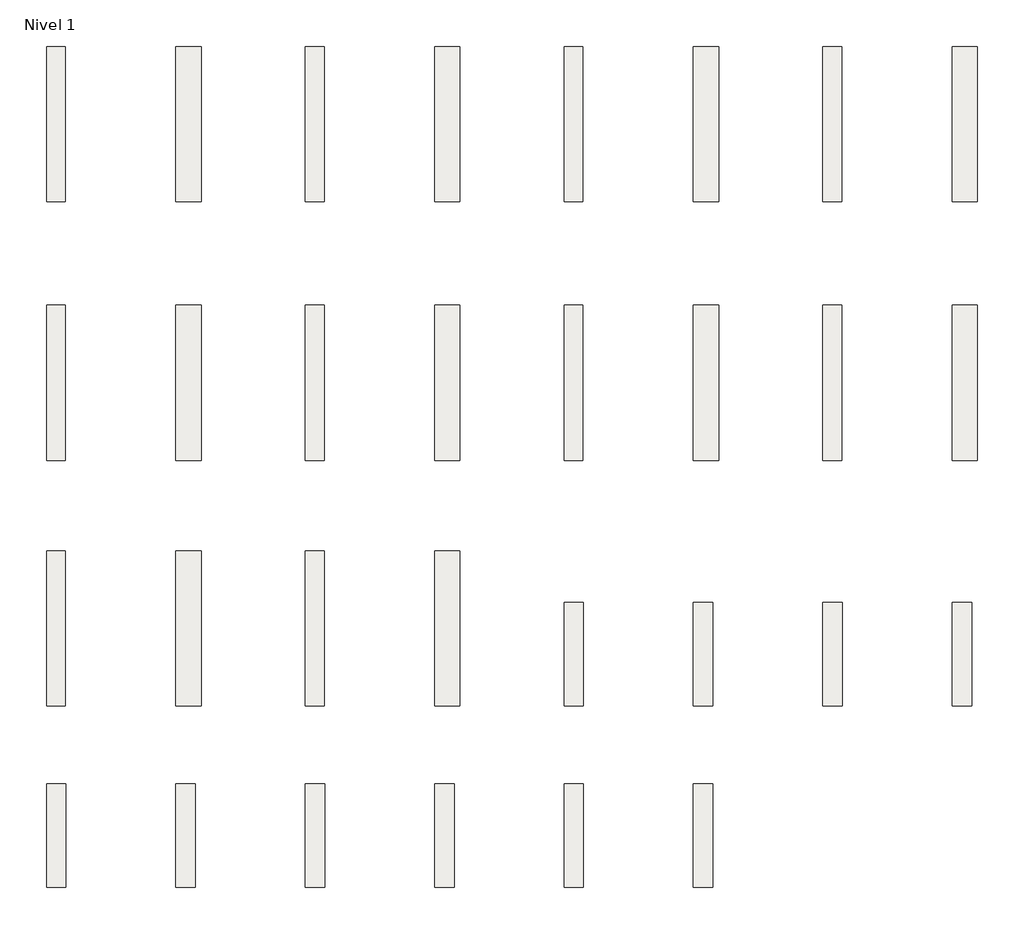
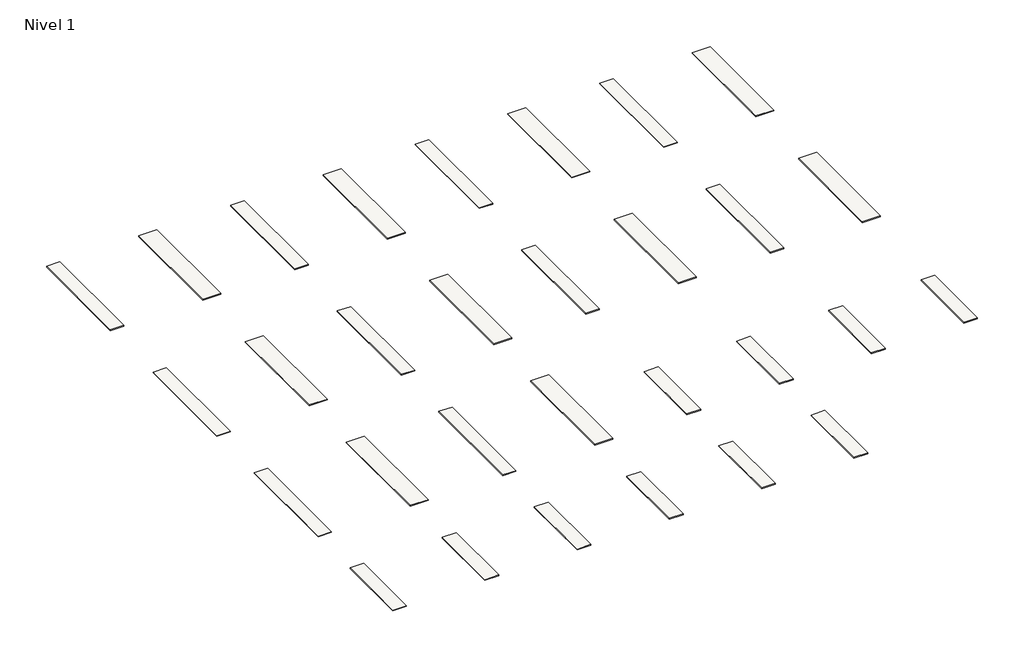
# One storey: 30 slabs.
"""IFC4 building model written with IfcOpenShell, lengths in millimetres."""

from ifc_helpers import new_model, si_unit, frame, origin, place, context, project, spatial, polyline, outline, extrude, element, save

model = new_model("IFC4")

# Units and contexts
model_context = context("Model", 3, world=origin())
ifc_project = project(units=[si_unit("LENGTHUNIT", "METRE", prefix="MILLI")], contexts=[model_context])

# Site, building, storey
site = spatial("IfcSite", under=ifc_project)
building = spatial("IfcBuilding", under=site)
storey = spatial("IfcBuildingStorey", under=building, Name="Nivel 1", Elevation=0.0)

# Slabs
placement = place(None, origin())
element("IfcSlab", 1, ObjectType="Amberwood Cedro 14,5X120 Rec.", at=placement, inside=storey, context=model_context, shape_type="SweptSolid", body=[
    extrude(outline(polyline([(0.0, 1200.0), (145.0, 1200.0), (145.0, 0.0), (0.0, 0.0), (0.0, 1200.0)])), frame((0.0, 0.0, -10.0), z_axis=(0.0, 0.0, 1.0), x_axis=(1.0, 0.0, 0.0)), (0.0, 0.0, 1.0), 10.0),
])
element("IfcSlab", 2, ObjectType="Amberwood Cedro 19,5X120 Rec.", at=placement, inside=storey, context=model_context, shape_type="SweptSolid", body=[
    extrude(outline(polyline([(1000.0, 1200.0), (1195.0, 1200.0), (1195.0, 0.0), (1000.0, 0.0), (1000.0, 1200.0)])), frame((0.0, 0.0, -10.0), z_axis=(0.0, 0.0, 1.0), x_axis=(1.0, 0.0, 0.0)), (0.0, 0.0, 1.0), 10.0),
])
element("IfcSlab", 3, ObjectType="Amberwood Roble 14,5X120 Rec.", at=placement, inside=storey, context=model_context, shape_type="SweptSolid", body=[
    extrude(outline(polyline([(2000.0, 1200.0), (2145.0, 1200.0), (2145.0, 0.0), (2000.0, 0.0), (2000.0, 1200.0)])), frame((0.0, 0.0, -10.0), z_axis=(0.0, 0.0, 1.0), x_axis=(1.0, 0.0, 0.0)), (0.0, 0.0, 1.0), 10.0),
])
element("IfcSlab", 4, ObjectType="Amberwood Roble 19,5X120 Rec.", at=placement, inside=storey, context=model_context, shape_type="SweptSolid", body=[
    extrude(outline(polyline([(3000.0, 1200.0), (3195.0, 1200.0), (3195.0, 0.0), (3000.0, 0.0), (3000.0, 1200.0)])), frame((0.0, 0.0, -10.0), z_axis=(0.0, 0.0, 1.0), x_axis=(1.0, 0.0, 0.0)), (0.0, 0.0, 1.0), 10.0),
])
element("IfcSlab", 5, ObjectType="Amberwood Fresno 14,5X120 Rec.", at=placement, inside=storey, context=model_context, shape_type="SweptSolid", body=[
    extrude(outline(polyline([(4000.0, 1200.0), (4145.0, 1200.0), (4145.0, 0.0), (4000.0, 0.0), (4000.0, 1200.0)])), frame((0.0, 0.0, -10.0), z_axis=(0.0, 0.0, 1.0), x_axis=(1.0, 0.0, 0.0)), (0.0, 0.0, 1.0), 10.0),
])
element("IfcSlab", 6, ObjectType="Amberwood Fresno 19,5X120 Rec.", at=placement, inside=storey, context=model_context, shape_type="SweptSolid", body=[
    extrude(outline(polyline([(5000.0, 1200.0), (5195.0, 1200.0), (5195.0, 0.0), (5000.0, 0.0), (5000.0, 1200.0)])), frame((0.0, 0.0, -10.0), z_axis=(0.0, 0.0, 1.0), x_axis=(1.0, 0.0, 0.0)), (0.0, 0.0, 1.0), 10.0),
])
element("IfcSlab", 7, ObjectType="Amberwood Secuoya 14,5X120 Rec.", at=placement, inside=storey, context=model_context, shape_type="SweptSolid", body=[
    extrude(outline(polyline([(6000.0, 1200.0), (6145.0, 1200.0), (6145.0, 0.0), (6000.0, 0.0), (6000.0, 1200.0)])), frame((0.0, 0.0, -10.0), z_axis=(0.0, 0.0, 1.0), x_axis=(1.0, 0.0, 0.0)), (0.0, 0.0, 1.0), 10.0),
])
element("IfcSlab", 8, ObjectType="Amberwood Secuoya 19,5X120 Rec.", at=placement, inside=storey, context=model_context, shape_type="SweptSolid", body=[
    extrude(outline(polyline([(7000.0, 1200.0), (7195.0, 1200.0), (7195.0, 0.0), (7000.0, 0.0), (7000.0, 1200.0)])), frame((0.0, 0.0, -10.0), z_axis=(0.0, 0.0, 1.0), x_axis=(1.0, 0.0, 0.0)), (0.0, 0.0, 1.0), 10.0),
])
element("IfcSlab", 9, ObjectType="Amberwood Olmo 14,5X120 Rec.", at=placement, inside=storey, context=model_context, shape_type="SweptSolid", body=[
    extrude(outline(polyline([(0.0, -800.0), (145.0, -800.0), (145.0, -2000.0), (0.0, -2000.0), (0.0, -800.0)])), frame((0.0, 0.0, -10.0), z_axis=(0.0, 0.0, 1.0), x_axis=(1.0, 0.0, 0.0)), (0.0, 0.0, 1.0), 10.0),
])
element("IfcSlab", 10, ObjectType="Amberwood Olmo 19,5X120 Rec.", at=placement, inside=storey, context=model_context, shape_type="SweptSolid", body=[
    extrude(outline(polyline([(1000.0, -800.0), (1195.0, -800.0), (1195.0, -2000.0), (1000.0, -2000.0), (1000.0, -800.0)])), frame((0.0, 0.0, -10.0), z_axis=(0.0, 0.0, 1.0), x_axis=(1.0, 0.0, 0.0)), (0.0, 0.0, 1.0), 10.0),
])
element("IfcSlab", 11, ObjectType="Amberwood Antislip Cedro 14,5X120 Rec.", at=placement, inside=storey, context=model_context, shape_type="SweptSolid", body=[
    extrude(outline(polyline([(2000.0, -800.0), (2145.0, -800.0), (2145.0, -2000.0), (2000.0, -2000.0), (2000.0, -800.0)])), frame((0.0, 0.0, -10.0), z_axis=(0.0, 0.0, 1.0), x_axis=(1.0, 0.0, 0.0)), (0.0, 0.0, 1.0), 10.0),
])
element("IfcSlab", 12, ObjectType="Amberwood Antislip Cedro 19,5X120 Rec.", at=placement, inside=storey, context=model_context, shape_type="SweptSolid", body=[
    extrude(outline(polyline([(3000.0, -800.0), (3195.0, -800.0), (3195.0, -2000.0), (3000.0, -2000.0), (3000.0, -800.0)])), frame((0.0, 0.0, -10.0), z_axis=(0.0, 0.0, 1.0), x_axis=(1.0, 0.0, 0.0)), (0.0, 0.0, 1.0), 10.0),
])
element("IfcSlab", 13, ObjectType="Amberwood Antislip Roble 14,5X120 Rec.", at=placement, inside=storey, context=model_context, shape_type="SweptSolid", body=[
    extrude(outline(polyline([(4000.0, -800.0), (4145.0, -800.0), (4145.0, -2000.0), (4000.0, -2000.0), (4000.0, -800.0)])), frame((0.0, 0.0, -10.0), z_axis=(0.0, 0.0, 1.0), x_axis=(1.0, 0.0, 0.0)), (0.0, 0.0, 1.0), 10.0),
])
element("IfcSlab", 14, ObjectType="Amberwood Antislip Roble 19,5X120 Rec.", at=placement, inside=storey, context=model_context, shape_type="SweptSolid", body=[
    extrude(outline(polyline([(5000.0, -800.0), (5195.0, -800.0), (5195.0, -2000.0), (5000.0, -2000.0), (5000.0, -800.0)])), frame((0.0, 0.0, -10.0), z_axis=(0.0, 0.0, 1.0), x_axis=(1.0, 0.0, 0.0)), (0.0, 0.0, 1.0), 10.0),
])
element("IfcSlab", 15, ObjectType="Amberwood Antislip Fresno 14,5X120 Rec.", at=placement, inside=storey, context=model_context, shape_type="SweptSolid", body=[
    extrude(outline(polyline([(6000.0, -800.0), (6145.0, -800.0), (6145.0, -2000.0), (6000.0, -2000.0), (6000.0, -800.0)])), frame((0.0, 0.0, -10.0), z_axis=(0.0, 0.0, 1.0), x_axis=(1.0, 0.0, 0.0)), (0.0, 0.0, 1.0), 10.0),
])
element("IfcSlab", 16, ObjectType="Amberwood Antislip Fresno 19,5X120 Rec.", at=placement, inside=storey, context=model_context, shape_type="SweptSolid", body=[
    extrude(outline(polyline([(7000.0, -800.0), (7195.0, -800.0), (7195.0, -2000.0), (7000.0, -2000.0), (7000.0, -800.0)])), frame((0.0, 0.0, -10.0), z_axis=(0.0, 0.0, 1.0), x_axis=(1.0, 0.0, 0.0)), (0.0, 0.0, 1.0), 10.0),
])
element("IfcSlab", 17, ObjectType="Amberwood Antislip Secuoya 14,5X120 Rec.", at=placement, inside=storey, context=model_context, shape_type="SweptSolid", body=[
    extrude(outline(polyline([(0.0, -2700.0), (145.0, -2700.0), (145.0, -3900.0), (0.0, -3900.0), (0.0, -2700.0)])), frame((0.0, 0.0, -10.0), z_axis=(0.0, 0.0, 1.0), x_axis=(1.0, 0.0, 0.0)), (0.0, 0.0, 1.0), 10.0),
])
element("IfcSlab", 18, ObjectType="Amberwood Antislip Secuoya 19,5X120 Rec.", at=placement, inside=storey, context=model_context, shape_type="SweptSolid", body=[
    extrude(outline(polyline([(1000.0, -2700.0), (1195.0, -2700.0), (1195.0, -3900.0), (1000.0, -3900.0), (1000.0, -2700.0)])), frame((0.0, 0.0, -10.0), z_axis=(0.0, 0.0, 1.0), x_axis=(1.0, 0.0, 0.0)), (0.0, 0.0, 1.0), 10.0),
])
element("IfcSlab", 19, ObjectType="Amberwood Antislip Olmo 14,5X120 Rec.", at=placement, inside=storey, context=model_context, shape_type="SweptSolid", body=[
    extrude(outline(polyline([(2000.0, -2700.0), (2145.0, -2700.0), (2145.0, -3900.0), (2000.0, -3900.0), (2000.0, -2700.0)])), frame((0.0, 0.0, -10.0), z_axis=(0.0, 0.0, 1.0), x_axis=(1.0, 0.0, 0.0)), (0.0, 0.0, 1.0), 10.0),
])
element("IfcSlab", 20, ObjectType="Amberwood Antislip Olmo 19,5X120 Rec.", at=placement, inside=storey, context=model_context, shape_type="SweptSolid", body=[
    extrude(outline(polyline([(3000.0, -2700.0), (3195.0, -2700.0), (3195.0, -3900.0), (3000.0, -3900.0), (3000.0, -2700.0)])), frame((0.0, 0.0, -10.0), z_axis=(0.0, 0.0, 1.0), x_axis=(1.0, 0.0, 0.0)), (0.0, 0.0, 1.0), 10.0),
])
element("IfcSlab", 21, ObjectType="Amberwood Cedro 15X80", at=placement, inside=storey, context=model_context, shape_type="SweptSolid", body=[
    extrude(outline(polyline([(4000.0, -3100.0), (4150.0, -3100.0), (4150.0, -3900.0), (4000.0, -3900.0), (4000.0, -3100.0)])), frame((0.0, 0.0, -10.0), z_axis=(0.0, 0.0, 1.0), x_axis=(1.0, 0.0, 0.0)), (0.0, 0.0, 1.0), 10.0),
])
element("IfcSlab", 22, ObjectType="Amberwood Roble 15X80", at=placement, inside=storey, context=model_context, shape_type="SweptSolid", body=[
    extrude(outline(polyline([(5000.0, -3100.0), (5150.0, -3100.0), (5150.0, -3900.0), (5000.0, -3900.0), (5000.0, -3100.0)])), frame((0.0, 0.0, -10.0), z_axis=(0.0, 0.0, 1.0), x_axis=(1.0, 0.0, 0.0)), (0.0, 0.0, 1.0), 10.0),
])
element("IfcSlab", 23, ObjectType="Amberwood Fresno 15X80", at=placement, inside=storey, context=model_context, shape_type="SweptSolid", body=[
    extrude(outline(polyline([(6000.0, -3100.0), (6150.0, -3100.0), (6150.0, -3900.0), (6000.0, -3900.0), (6000.0, -3100.0)])), frame((0.0, 0.0, -10.0), z_axis=(0.0, 0.0, 1.0), x_axis=(1.0, 0.0, 0.0)), (0.0, 0.0, 1.0), 10.0),
])
element("IfcSlab", 24, ObjectType="Amberwood Secuoya 15X80", at=placement, inside=storey, context=model_context, shape_type="SweptSolid", body=[
    extrude(outline(polyline([(7000.0, -3100.0), (7150.0, -3100.0), (7150.0, -3900.0), (7000.0, -3900.0), (7000.0, -3100.0)])), frame((0.0, 0.0, -10.0), z_axis=(0.0, 0.0, 1.0), x_axis=(1.0, 0.0, 0.0)), (0.0, 0.0, 1.0), 10.0),
])
element("IfcSlab", 25, ObjectType="Amberwood Olmo 15X80", at=placement, inside=storey, context=model_context, shape_type="SweptSolid", body=[
    extrude(outline(polyline([(0.0, -4500.0), (150.0, -4500.0), (150.0, -5300.0), (0.0, -5300.0), (0.0, -4500.0)])), frame((0.0, 0.0, -10.0), z_axis=(0.0, 0.0, 1.0), x_axis=(1.0, 0.0, 0.0)), (0.0, 0.0, 1.0), 10.0),
])
element("IfcSlab", 26, ObjectType="Amberwood Antislip Cedro 15X80", at=placement, inside=storey, context=model_context, shape_type="SweptSolid", body=[
    extrude(outline(polyline([(1000.0, -4500.0), (1150.0, -4500.0), (1150.0, -5300.0), (1000.0, -5300.0), (1000.0, -4500.0)])), frame((0.0, 0.0, -10.0), z_axis=(0.0, 0.0, 1.0), x_axis=(1.0, 0.0, 0.0)), (0.0, 0.0, 1.0), 10.0),
])
element("IfcSlab", 27, ObjectType="Amberwood Antislip Roble 15X80", at=placement, inside=storey, context=model_context, shape_type="SweptSolid", body=[
    extrude(outline(polyline([(2000.0, -4500.0), (2150.0, -4500.0), (2150.0, -5300.0), (2000.0, -5300.0), (2000.0, -4500.0)])), frame((0.0, 0.0, -10.0), z_axis=(0.0, 0.0, 1.0), x_axis=(1.0, 0.0, 0.0)), (0.0, 0.0, 1.0), 10.0),
])
element("IfcSlab", 28, ObjectType="Amberwood Antislip Fresno 15X80", at=placement, inside=storey, context=model_context, shape_type="SweptSolid", body=[
    extrude(outline(polyline([(3000.0, -4500.0), (3150.0, -4500.0), (3150.0, -5300.0), (3000.0, -5300.0), (3000.0, -4500.0)])), frame((0.0, 0.0, -10.0), z_axis=(0.0, 0.0, 1.0), x_axis=(1.0, 0.0, 0.0)), (0.0, 0.0, 1.0), 10.0),
])
element("IfcSlab", 29, ObjectType="Amberwood Antislip Secuoya 15X80", at=placement, inside=storey, context=model_context, shape_type="SweptSolid", body=[
    extrude(outline(polyline([(4000.0, -4500.0), (4150.0, -4500.0), (4150.0, -5300.0), (4000.0, -5300.0), (4000.0, -4500.0)])), frame((0.0, 0.0, -10.0), z_axis=(0.0, 0.0, 1.0), x_axis=(1.0, 0.0, 0.0)), (0.0, 0.0, 1.0), 10.0),
])
element("IfcSlab", 30, ObjectType="Amberwood Antislip Olmo 15X80", at=placement, inside=storey, context=model_context, shape_type="SweptSolid", body=[
    extrude(outline(polyline([(5000.0, -4500.0), (5150.0, -4500.0), (5150.0, -5300.0), (5000.0, -5300.0), (5000.0, -4500.0)])), frame((0.0, 0.0, -10.0), z_axis=(0.0, 0.0, 1.0), x_axis=(1.0, 0.0, 0.0)), (0.0, 0.0, 1.0), 10.0),
])

save(model, "model.ifc")
